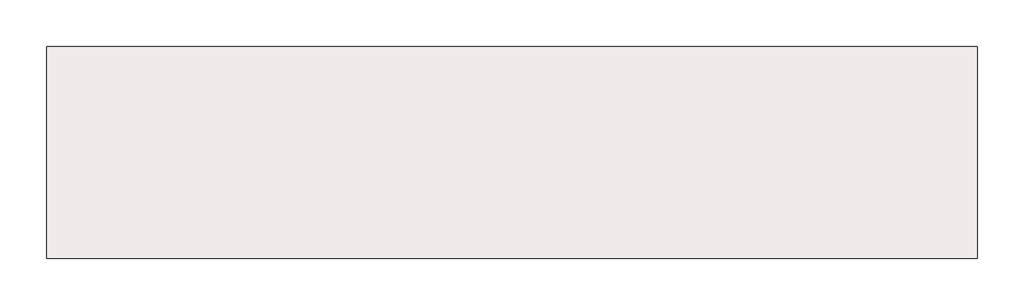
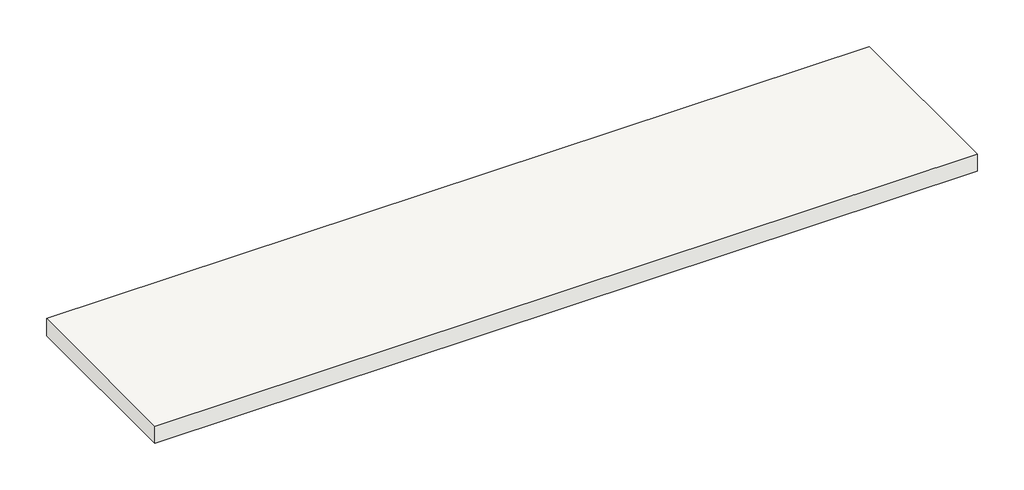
# One storey: 1 slab.
"""IFC4 building model written with IfcOpenShell, lengths in millimetres."""

from ifc_helpers import new_model, si_unit, frame, origin, place, context, project, spatial, polyline, outline, extrude, element, save

model = new_model("IFC4")

# Units and contexts
model_context = context("Model", 3, world=origin())
ifc_project = project(units=[si_unit("LENGTHUNIT", "METRE", prefix="MILLI")], contexts=[model_context])

# Site, building, storey
site = spatial("IfcSite", under=ifc_project)
building = spatial("IfcBuilding", under=site)
storey = spatial("IfcBuildingStorey", under=building, Name="b-bwtr", Elevation=-1676.4)

# Slab
placement = place(None, origin())
element("IfcSlab", 1, ObjectType="water feature", at=placement, inside=storey, context=model_context, shape_type="SweptSolid", body=[
    extrude(outline(polyline([(-92463.290902, 15306.8071029), (-51467.690902, 15306.8071029), (-51467.690902, 5959.6071029), (-92463.290902, 5959.6071029), (-92463.290902, 15306.8071029)])), frame((0.0, 0.0, -2590.8), z_axis=(0.0, 0.0, 1.0), x_axis=(1.0, 0.0, 0.0)), (0.0, 0.0, 1.0), 914.4),
])

save(model, "model.ifc")
